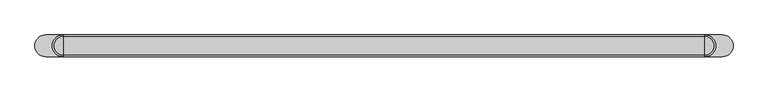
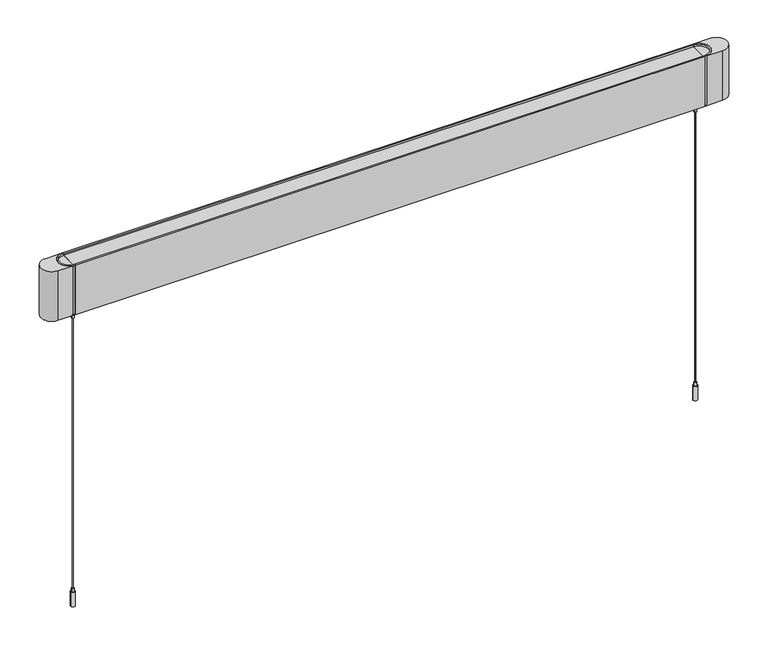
"""IFC4 building model written with IfcOpenShell, lengths in millimetres: light fixture geometry, Lighting-Pendant-Betacalco-Block-Straight : BLKP-DT1-PW01-TR01-SL04-EP01-LP020-CR80-CTA40."""

from ifc_helpers import new_model, si_unit, point, frame, frame_2d, origin, place, context, project, spatial, polyline, circle_curve, trimmed, segment, composite_curve, outline, extrude, source, transform, mapped, element, save
from ifc_brep_helpers import plane_surface, cylinder_surface, revolved_surface, advanced_brep


def light_fixture_935129ff(model_context):
    return source(origin(), model_context, "Body", "SolidModel", [
        extrude(outline(composite_curve([segment(polyline([(609.6, -20.6375), (609.6, -18.0975)]), True, "CONTINUOUS"), segment(trimmed(circle_curve(frame_2d((609.6, 0.0)), 18.0975), [point((609.6, -18.0975))], [point((609.6, 18.0975))], True, "CARTESIAN"), True, "CONTINUOUS"), segment(polyline([(609.6, 18.0975), (609.6, 20.6375)]), True, "CONTINUOUS"), segment(trimmed(circle_curve(frame_2d((609.6, 0.0)), 20.6375), [point((609.6, 20.6375))], [point((609.6, -20.6375))], False, "CARTESIAN"), True, "CONTINUOUS")], self_intersect=False)), frame((0.0, 0.0, 611.1875), z_axis=(0.0, 0.0, 1.0), x_axis=(1.0, 0.0, 0.0)), (0.0, 0.0, 1.0), 100.0125),
        extrude(outline(composite_curve([segment(polyline([(609.6, -18.0975), (609.6, 18.0975)]), True, "CONTINUOUS"), segment(trimmed(circle_curve(frame_2d((609.6, 0.0)), 18.0975), [point((609.6, 18.0975))], [point((609.6, -18.0975))], False, "CARTESIAN"), True, "CONTINUOUS")], self_intersect=False)), frame((0.0, 0.0, 705.9095588), z_axis=(0.0, 0.0, 1.0), x_axis=(1.0, 0.0, 0.0)), (0.0, 0.0, 1.0), 1.5875),
        advanced_brep(
        [(609.6, 20.6375, 611.1875), (609.6, -20.6375, 611.1875), (609.6, -20.6375, 609.6), (609.6, 20.6375, 609.6), (642.9375, 20.6375, 609.6), (642.9375, -20.6375, 609.6), (609.6, 20.6375, 711.2), (609.6, -20.6375, 711.2), (642.9375, -20.6375, 711.2), (642.9375, 20.6375, 711.2)],
        [
            (0, 1),
            (1, 0, circle_curve(frame((609.6, 0.0, 611.1875), z_axis=(0.0, 0.0, 1.0), x_axis=(1.0, 0.0, 0.0)), 20.6375)),
            (2, 3),
            (3, 4),
            (4, 5, circle_curve(frame((642.9375, 0.0, 609.6), z_axis=(0.0, 0.0, -1.0), x_axis=(1.0, 0.0, 0.0)), 20.6375)),
            (5, 2),
            (0, 3),
            (2, 1),
            (6, 7, circle_curve(frame((609.6, 0.0, 711.2), z_axis=(0.0, 0.0, -1.0), x_axis=(1.0, 0.0, 0.0)), 20.6375)),
            (7, 8),
            (8, 9, circle_curve(frame((642.9375, 0.0, 711.2), z_axis=(0.0, 0.0, 1.0), x_axis=(1.0, 0.0, 0.0)), 20.6375)),
            (9, 6),
            (6, 0),
            (1, 7),
            (5, 8),
            (4, 9),
        ],
        [
            plane_surface(frame((630.2375, 0.0, 611.1875), z_axis=(0.0, 0.0, 1.0), x_axis=(0.0, 1.0, 0.0))),
            plane_surface(frame((630.2375, 0.0, 609.6), z_axis=(0.0, 0.0, -1.0), x_axis=(0.0, -1.0, 0.0))),
            plane_surface(frame((609.6, 20.6375, 611.1875), z_axis=(-1.0, 0.0, 0.0), x_axis=(0.0, 0.0, -1.0))),
            plane_surface(frame((630.2375, 0.0, 711.2), z_axis=(0.0, 0.0, 1.0), x_axis=(0.0, -1.0, 0.0))),
            revolved_surface(polyline([(630.2375000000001, 0.0, 611.1875), (630.2375000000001, 0.0, 711.2)]), (609.6, 0.0, 609.6), (0.0, 0.0, -1.0)),
            plane_surface(frame((609.6, -20.6375, 711.2), z_axis=(0.0, -1.0, 0.0), x_axis=(0.0, 0.0, -1.0))),
            cylinder_surface(frame((642.9375, 0.0, 609.6), z_axis=(0.0, 0.0, 1.0), x_axis=(1.0, 0.0, 0.0)), 20.6375),
            plane_surface(frame((642.9375, 20.6375, 711.2), z_axis=(0.0, 1.0, 0.0), x_axis=(0.0, 0.0, -1.0))),
        ],
        [
            (0, [[1, 2]]),
            (1, [[3, 4, 5, 6]]),
            (2, [[-1, 7, -3, 8]]),
            (3, [[9, 10, 11, 12]]),
            (4, [[-9, 13, -2, 14]]),
            (5, [[-10, -14, -8, -6, 15]]),
            (6, [[-11, -15, -5, 16]]),
            (7, [[-12, -16, -4, -7, -13]]),
        ],
    ),
        extrude(outline(composite_curve([segment(polyline([(-609.6, 20.6375), (-609.6, 18.0975)]), True, "CONTINUOUS"), segment(trimmed(circle_curve(frame_2d((-609.6, 0.0)), 18.0975), [point((-609.6, 18.0975))], [point((-609.6, -18.0975))], True, "CARTESIAN"), True, "CONTINUOUS"), segment(polyline([(-609.6, -18.0975), (-609.6, -20.6375)]), True, "CONTINUOUS"), segment(trimmed(circle_curve(frame_2d((-609.6, 0.0)), 20.6375), [point((-609.6, -20.6375))], [point((-609.6, 20.6375))], False, "CARTESIAN"), True, "CONTINUOUS")], self_intersect=False)), frame((0.0, 0.0, 611.1875), z_axis=(0.0, 0.0, 1.0), x_axis=(1.0, 0.0, 0.0)), (0.0, 0.0, 1.0), 100.0125),
        extrude(outline(composite_curve([segment(polyline([(-609.6, 18.0975), (-609.6, -18.0975)]), True, "CONTINUOUS"), segment(trimmed(circle_curve(frame_2d((-609.6, 0.0)), 18.0975), [point((-609.6, -18.0975))], [point((-609.6, 18.0975))], False, "CARTESIAN"), True, "CONTINUOUS")], self_intersect=False)), frame((0.0, 0.0, 705.9095588), z_axis=(0.0, 0.0, 1.0), x_axis=(1.0, 0.0, 0.0)), (0.0, 0.0, 1.0), 1.5875),
        advanced_brep(
        [(-609.6, -20.6375, 611.1875), (-609.6, 20.6375, 611.1875), (-609.6, 20.6375, 609.6), (-609.6, -20.6375, 609.6), (-642.9375, -20.6375, 609.6), (-642.9375, 20.6375, 609.6), (-609.6, -20.6375, 711.2), (-609.6, 20.6375, 711.2), (-642.9375, 20.6375, 711.2), (-642.9375, -20.6375, 711.2)],
        [
            (0, 1),
            (1, 0, circle_curve(frame((-609.6, 0.0, 611.1875), z_axis=(0.0, 0.0, 1.0), x_axis=(-1.0, 0.0, 0.0)), 20.6375)),
            (2, 3),
            (3, 4),
            (4, 5, circle_curve(frame((-642.9375, 0.0, 609.6), z_axis=(0.0, 0.0, -1.0), x_axis=(-1.0, 0.0, 0.0)), 20.6375)),
            (5, 2),
            (0, 3),
            (2, 1),
            (6, 7, circle_curve(frame((-609.6, 0.0, 711.2), z_axis=(0.0, 0.0, -1.0), x_axis=(-1.0, 0.0, 0.0)), 20.6375)),
            (7, 8),
            (8, 9, circle_curve(frame((-642.9375, 0.0, 711.2), z_axis=(0.0, 0.0, 1.0), x_axis=(-1.0, 0.0, 0.0)), 20.6375)),
            (9, 6),
            (6, 0),
            (1, 7),
            (5, 8),
            (4, 9),
        ],
        [
            plane_surface(frame((-630.2375, 0.0, 611.1875), z_axis=(0.0, 0.0, 1.0), x_axis=(0.0, -1.0, 0.0))),
            plane_surface(frame((-630.2375, 0.0, 609.6), z_axis=(0.0, 0.0, -1.0), x_axis=(0.0, 1.0, 0.0))),
            plane_surface(frame((-609.6, -20.6375, 611.1875), z_axis=(1.0, 0.0, 0.0), x_axis=(0.0, 0.0, -1.0))),
            plane_surface(frame((-630.2375, 0.0, 711.2), z_axis=(0.0, 0.0, 1.0), x_axis=(0.0, 1.0, 0.0))),
            revolved_surface(polyline([(-630.2375000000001, 0.0, 611.1875), (-630.2375000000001, 0.0, 711.2)]), (-609.6, 0.0, 609.6), (0.0, 0.0, -1.0)),
            plane_surface(frame((-609.6, 20.6375, 711.2), z_axis=(0.0, 1.0, 0.0), x_axis=(0.0, 0.0, -1.0))),
            cylinder_surface(frame((-642.9375, 0.0, 609.6), z_axis=(0.0, 0.0, 1.0), x_axis=(-1.0, 0.0, 0.0)), 20.6375),
            plane_surface(frame((-642.9375, -20.6375, 711.2), z_axis=(0.0, -1.0, 0.0), x_axis=(0.0, 0.0, -1.0))),
        ],
        [
            (0, [[1, 2]]),
            (1, [[3, 4, 5, 6]]),
            (2, [[-1, 7, -3, 8]]),
            (3, [[9, 10, 11, 12]]),
            (4, [[-9, 13, -2, 14]]),
            (5, [[-10, -14, -8, -6, 15]]),
            (6, [[-11, -15, -5, 16]]),
            (7, [[-12, -16, -4, -7, -13]]),
        ],
    ),
        advanced_brep(
        [(606.4250015, 0.0, 0.0), (597.5349985, 0.0, 0.0), (597.5349985, 0.0, 28.4480024), (606.4250015, 0.0, 28.4480024), (599.4400002, 0.0, 28.4480024), (604.5199998, 0.0, 28.4480024), (599.4400002, 0.0, 35.4330037), (604.5199998, 0.0, 35.4330037), (601.98, 0.0, 35.4330037), (601.98, 0.0, 0.0)],
        [
            (0, 1, circle_curve(frame((601.98, 0.0, 0.0), z_axis=(0.0, 0.0, 1.0), x_axis=(-1.0, 0.0, 0.0)), 4.4450015)),
            (1, 2),
            (2, 3, circle_curve(frame((601.98, 0.0, 28.4480024), z_axis=(0.0, 0.0, -1.0), x_axis=(-1.0, 0.0, 0.0)), 4.4450015)),
            (3, 0),
            (1, 0, circle_curve(frame((601.98, 0.0, 0.0), z_axis=(0.0, 0.0, 1.0), x_axis=(-1.0, 0.0, 0.0)), 4.4450015)),
            (3, 2, circle_curve(frame((601.98, 0.0, 28.4480024), z_axis=(0.0, 0.0, -1.0), x_axis=(-1.0, 0.0, 0.0)), 4.4450015)),
            (2, 4),
            (4, 5, circle_curve(frame((601.98, 0.0, 28.4480024), z_axis=(0.0, 0.0, -1.0), x_axis=(-1.0, 0.0, 0.0)), 2.5399998)),
            (5, 3),
            (5, 4, circle_curve(frame((601.98, 0.0, 28.4480024), z_axis=(0.0, 0.0, -1.0), x_axis=(-1.0, 0.0, 0.0)), 2.5399998)),
            (4, 6),
            (6, 7, circle_curve(frame((601.98, 0.0, 35.4330037), z_axis=(0.0, 0.0, -1.0), x_axis=(-1.0, 0.0, 0.0)), 2.5399998)),
            (7, 5),
            (7, 6, circle_curve(frame((601.98, 0.0, 35.4330037), z_axis=(0.0, 0.0, -1.0), x_axis=(-1.0, 0.0, 0.0)), 2.5399998)),
            (6, 8),
            (8, 7),
            (9, 1),
            (0, 9),
        ],
        [
            cylinder_surface(frame((601.98, 0.0, 2366.7150031), z_axis=(0.0, 0.0, -1.0), x_axis=(-1.0, 0.0, 0.0)), 4.4450015),
            plane_surface(frame((601.98, 0.0, 28.4480024), z_axis=(0.0, 0.0, 1.0), x_axis=(-1.0, 0.0, 0.0))),
            cylinder_surface(frame((601.98, 0.0, 2366.7150031), z_axis=(0.0, 0.0, -1.0), x_axis=(-1.0, 0.0, 0.0)), 2.5399998),
            plane_surface(frame((601.98, 0.0, 35.4330037), z_axis=(0.0, 0.0, 1.0), x_axis=(-1.0, 0.0, 0.0))),
            plane_surface(frame((601.98, 0.0, 0.0), z_axis=(0.0, 0.0, -1.0), x_axis=(-1.0, 0.0, 0.0))),
        ],
        [
            (0, [[1, 2, 3, 4]]),
            (0, [[5, -4, 6, -2]]),
            (1, [[-3, 7, 8, 9]]),
            (1, [[-6, -9, 10, -7]]),
            (2, [[-8, 11, 12, 13]]),
            (2, [[-10, -13, 14, -11]]),
            (3, [[-12, 15, 16]]),
            (3, [[-14, -16, -15]]),
            (4, [[17, -1, 18]]),
            (4, [[-18, -5, -17]]),
        ],
    ),
        advanced_brep(
        [(602.7737476, 0.0, 35.4330037), (601.1862524, 0.0, 35.4330037), (601.1862524, 0.0, 589.2774601), (602.7737476, 0.0, 589.2774601), (601.98, 0.0, 35.4330037), (601.98, 0.0, 589.2774601)],
        [
            (0, 1, circle_curve(frame((601.98, 0.0, 35.4330037), z_axis=(0.0, 0.0, 1.0), x_axis=(-1.0, 0.0, 0.0)), 0.7937476)),
            (1, 2),
            (2, 3, circle_curve(frame((601.98, 0.0, 589.2774601), z_axis=(0.0, 0.0, -1.0), x_axis=(-1.0, 0.0, 0.0)), 0.7937476)),
            (3, 0),
            (1, 0, circle_curve(frame((601.98, 0.0, 35.4330037), z_axis=(0.0, 0.0, 1.0), x_axis=(-1.0, 0.0, 0.0)), 0.7937476)),
            (3, 2, circle_curve(frame((601.98, 0.0, 589.2774601), z_axis=(0.0, 0.0, -1.0), x_axis=(-1.0, 0.0, 0.0)), 0.7937476)),
            (4, 1),
            (0, 4),
            (2, 5),
            (5, 3),
        ],
        [
            cylinder_surface(frame((601.98, 0.0, 2366.7150031), z_axis=(0.0, 0.0, -1.0), x_axis=(-1.0, 0.0, 0.0)), 0.7937476),
            plane_surface(frame((601.98, 0.0, 35.4330037), z_axis=(0.0, 0.0, -1.0), x_axis=(-1.0, 0.0, 0.0))),
            plane_surface(frame((601.98, 0.0, 589.2774601), z_axis=(0.0, 0.0, 1.0), x_axis=(-1.0, 0.0, 0.0))),
        ],
        [
            (0, [[1, 2, 3, 4]]),
            (0, [[5, -4, 6, -2]]),
            (1, [[7, -1, 8]]),
            (1, [[-8, -5, -7]]),
            (2, [[-3, 9, 10]]),
            (2, [[-6, -10, -9]]),
        ],
    ),
        advanced_brep(
        [(606.4250015, 0.0, 596.2624614), (597.5349985, 0.0, 596.2624614), (597.5349985, 0.0, 609.6), (606.4250015, 0.0, 609.6), (604.5199998, 0.0, 596.2624614), (599.4400002, 0.0, 596.2624614), (604.5199998, 0.0, 589.2774601), (599.4400002, 0.0, 589.2774601), (601.98, 0.0, 589.2774601), (601.98, 0.0, 609.6)],
        [
            (0, 1, circle_curve(frame((601.98, 0.0, 596.2624614), z_axis=(0.0, 0.0, 1.0), x_axis=(-1.0, 0.0, 0.0)), 4.4450015)),
            (1, 2),
            (2, 3, circle_curve(frame((601.98, 0.0, 609.6), z_axis=(0.0, 0.0, -1.0), x_axis=(-1.0, 0.0, 0.0)), 4.4450015)),
            (3, 0),
            (1, 0, circle_curve(frame((601.98, 0.0, 596.2624614), z_axis=(0.0, 0.0, 1.0), x_axis=(-1.0, 0.0, 0.0)), 4.4450015)),
            (3, 2, circle_curve(frame((601.98, 0.0, 609.6), z_axis=(0.0, 0.0, -1.0), x_axis=(-1.0, 0.0, 0.0)), 4.4450015)),
            (4, 5, circle_curve(frame((601.98, 0.0, 596.2624614), z_axis=(0.0, 0.0, 1.0), x_axis=(-1.0, 0.0, 0.0)), 2.5399998)),
            (5, 1),
            (0, 4),
            (5, 4, circle_curve(frame((601.98, 0.0, 596.2624614), z_axis=(0.0, 0.0, 1.0), x_axis=(-1.0, 0.0, 0.0)), 2.5399998)),
            (6, 7, circle_curve(frame((601.98, 0.0, 589.2774601), z_axis=(0.0, 0.0, 1.0), x_axis=(-1.0, 0.0, 0.0)), 2.5399998)),
            (7, 5),
            (4, 6),
            (7, 6, circle_curve(frame((601.98, 0.0, 589.2774601), z_axis=(0.0, 0.0, 1.0), x_axis=(-1.0, 0.0, 0.0)), 2.5399998)),
            (8, 7),
            (6, 8),
            (2, 9),
            (9, 3),
        ],
        [
            cylinder_surface(frame((601.98, 0.0, 2366.7150031), z_axis=(0.0, 0.0, -1.0), x_axis=(-1.0, 0.0, 0.0)), 4.4450015),
            plane_surface(frame((601.98, 0.0, 596.2624614), z_axis=(0.0, 0.0, -1.0), x_axis=(-1.0, 0.0, 0.0))),
            cylinder_surface(frame((601.98, 0.0, 2366.7150031), z_axis=(0.0, 0.0, -1.0), x_axis=(-1.0, 0.0, 0.0)), 2.5399998),
            plane_surface(frame((601.98, 0.0, 589.2774601), z_axis=(0.0, 0.0, -1.0), x_axis=(-1.0, 0.0, 0.0))),
            plane_surface(frame((601.98, 0.0, 609.6), z_axis=(0.0, 0.0, 1.0), x_axis=(-1.0, 0.0, 0.0))),
        ],
        [
            (0, [[1, 2, 3, 4]]),
            (0, [[5, -4, 6, -2]]),
            (1, [[7, 8, -1, 9]]),
            (1, [[10, -9, -5, -8]]),
            (2, [[11, 12, -7, 13]]),
            (2, [[14, -13, -10, -12]]),
            (3, [[15, -11, 16]]),
            (3, [[-16, -14, -15]]),
            (4, [[-3, 17, 18]]),
            (4, [[-6, -18, -17]]),
        ],
    ),
        advanced_brep(
        [(-597.5349985, 0.0, 0.0), (-606.4250015, 0.0, 0.0), (-606.4250015, 0.0, 28.4480024), (-597.5349985, 0.0, 28.4480024), (-604.5199998, 0.0, 28.4480024), (-599.4400002, 0.0, 28.4480024), (-604.5199998, 0.0, 35.4330037), (-599.4400002, 0.0, 35.4330037), (-601.98, 0.0, 35.4330037), (-601.98, 0.0, 0.0)],
        [
            (0, 1, circle_curve(frame((-601.98, 0.0, 0.0), z_axis=(0.0, 0.0, 1.0), x_axis=(-1.0, 0.0, 0.0)), 4.4450015)),
            (1, 2),
            (2, 3, circle_curve(frame((-601.98, 0.0, 28.4480024), z_axis=(0.0, 0.0, -1.0), x_axis=(-1.0, 0.0, 0.0)), 4.4450015)),
            (3, 0),
            (1, 0, circle_curve(frame((-601.98, 0.0, 0.0), z_axis=(0.0, 0.0, 1.0), x_axis=(-1.0, 0.0, 0.0)), 4.4450015)),
            (3, 2, circle_curve(frame((-601.98, 0.0, 28.4480024), z_axis=(0.0, 0.0, -1.0), x_axis=(-1.0, 0.0, 0.0)), 4.4450015)),
            (2, 4),
            (4, 5, circle_curve(frame((-601.98, 0.0, 28.4480024), z_axis=(0.0, 0.0, -1.0), x_axis=(-1.0, 0.0, 0.0)), 2.5399998)),
            (5, 3),
            (5, 4, circle_curve(frame((-601.98, 0.0, 28.4480024), z_axis=(0.0, 0.0, -1.0), x_axis=(-1.0, 0.0, 0.0)), 2.5399998)),
            (4, 6),
            (6, 7, circle_curve(frame((-601.98, 0.0, 35.4330037), z_axis=(0.0, 0.0, -1.0), x_axis=(-1.0, 0.0, 0.0)), 2.5399998)),
            (7, 5),
            (7, 6, circle_curve(frame((-601.98, 0.0, 35.4330037), z_axis=(0.0, 0.0, -1.0), x_axis=(-1.0, 0.0, 0.0)), 2.5399998)),
            (6, 8),
            (8, 7),
            (9, 1),
            (0, 9),
        ],
        [
            cylinder_surface(frame((-601.98, 0.0, 2366.7150031), z_axis=(0.0, 0.0, -1.0), x_axis=(-1.0, 0.0, 0.0)), 4.4450015),
            plane_surface(frame((-601.98, 0.0, 28.4480024), z_axis=(0.0, 0.0, 1.0), x_axis=(-1.0, 0.0, 0.0))),
            cylinder_surface(frame((-601.98, 0.0, 2366.7150031), z_axis=(0.0, 0.0, -1.0), x_axis=(-1.0, 0.0, 0.0)), 2.5399998),
            plane_surface(frame((-601.98, 0.0, 35.4330037), z_axis=(0.0, 0.0, 1.0), x_axis=(-1.0, 0.0, 0.0))),
            plane_surface(frame((-601.98, 0.0, 0.0), z_axis=(0.0, 0.0, -1.0), x_axis=(-1.0, 0.0, 0.0))),
        ],
        [
            (0, [[1, 2, 3, 4]]),
            (0, [[5, -4, 6, -2]]),
            (1, [[-3, 7, 8, 9]]),
            (1, [[-6, -9, 10, -7]]),
            (2, [[-8, 11, 12, 13]]),
            (2, [[-10, -13, 14, -11]]),
            (3, [[-12, 15, 16]]),
            (3, [[-14, -16, -15]]),
            (4, [[17, -1, 18]]),
            (4, [[-18, -5, -17]]),
        ],
    ),
        advanced_brep(
        [(-601.1862524, 0.0, 35.4330037), (-602.7737476, 0.0, 35.4330037), (-602.7737476, 0.0, 589.2774601), (-601.1862524, 0.0, 589.2774601), (-601.98, 0.0, 35.4330037), (-601.98, 0.0, 589.2774601)],
        [
            (0, 1, circle_curve(frame((-601.98, 0.0, 35.4330037), z_axis=(0.0, 0.0, 1.0), x_axis=(-1.0, 0.0, 0.0)), 0.7937476)),
            (1, 2),
            (2, 3, circle_curve(frame((-601.98, 0.0, 589.2774601), z_axis=(0.0, 0.0, -1.0), x_axis=(-1.0, 0.0, 0.0)), 0.7937476)),
            (3, 0),
            (1, 0, circle_curve(frame((-601.98, 0.0, 35.4330037), z_axis=(0.0, 0.0, 1.0), x_axis=(-1.0, 0.0, 0.0)), 0.7937476)),
            (3, 2, circle_curve(frame((-601.98, 0.0, 589.2774601), z_axis=(0.0, 0.0, -1.0), x_axis=(-1.0, 0.0, 0.0)), 0.7937476)),
            (4, 1),
            (0, 4),
            (2, 5),
            (5, 3),
        ],
        [
            cylinder_surface(frame((-601.98, 0.0, 2366.7150031), z_axis=(0.0, 0.0, -1.0), x_axis=(-1.0, 0.0, 0.0)), 0.7937476),
            plane_surface(frame((-601.98, 0.0, 35.4330037), z_axis=(0.0, 0.0, -1.0), x_axis=(-1.0, 0.0, 0.0))),
            plane_surface(frame((-601.98, 0.0, 589.2774601), z_axis=(0.0, 0.0, 1.0), x_axis=(-1.0, 0.0, 0.0))),
        ],
        [
            (0, [[1, 2, 3, 4]]),
            (0, [[5, -4, 6, -2]]),
            (1, [[7, -1, 8]]),
            (1, [[-8, -5, -7]]),
            (2, [[-3, 9, 10]]),
            (2, [[-6, -10, -9]]),
        ],
    ),
        advanced_brep(
        [(-597.5349985, 0.0, 596.2624614), (-606.4250015, 0.0, 596.2624614), (-606.4250015, 0.0, 609.6), (-597.5349985, 0.0, 609.6), (-599.4400002, 0.0, 596.2624614), (-604.5199998, 0.0, 596.2624614), (-599.4400002, 0.0, 589.2774601), (-604.5199998, 0.0, 589.2774601), (-601.98, 0.0, 589.2774601), (-601.98, 0.0, 609.6)],
        [
            (0, 1, circle_curve(frame((-601.98, 0.0, 596.2624614), z_axis=(0.0, 0.0, 1.0), x_axis=(-1.0, 0.0, 0.0)), 4.4450015)),
            (1, 2),
            (2, 3, circle_curve(frame((-601.98, 0.0, 609.6), z_axis=(0.0, 0.0, -1.0), x_axis=(-1.0, 0.0, 0.0)), 4.4450015)),
            (3, 0),
            (1, 0, circle_curve(frame((-601.98, 0.0, 596.2624614), z_axis=(0.0, 0.0, 1.0), x_axis=(-1.0, 0.0, 0.0)), 4.4450015)),
            (3, 2, circle_curve(frame((-601.98, 0.0, 609.6), z_axis=(0.0, 0.0, -1.0), x_axis=(-1.0, 0.0, 0.0)), 4.4450015)),
            (4, 5, circle_curve(frame((-601.98, 0.0, 596.2624614), z_axis=(0.0, 0.0, 1.0), x_axis=(-1.0, 0.0, 0.0)), 2.5399998)),
            (5, 1),
            (0, 4),
            (5, 4, circle_curve(frame((-601.98, 0.0, 596.2624614), z_axis=(0.0, 0.0, 1.0), x_axis=(-1.0, 0.0, 0.0)), 2.5399998)),
            (6, 7, circle_curve(frame((-601.98, 0.0, 589.2774601), z_axis=(0.0, 0.0, 1.0), x_axis=(-1.0, 0.0, 0.0)), 2.5399998)),
            (7, 5),
            (4, 6),
            (7, 6, circle_curve(frame((-601.98, 0.0, 589.2774601), z_axis=(0.0, 0.0, 1.0), x_axis=(-1.0, 0.0, 0.0)), 2.5399998)),
            (8, 7),
            (6, 8),
            (2, 9),
            (9, 3),
        ],
        [
            cylinder_surface(frame((-601.98, 0.0, 2366.7150031), z_axis=(0.0, 0.0, -1.0), x_axis=(-1.0, 0.0, 0.0)), 4.4450015),
            plane_surface(frame((-601.98, 0.0, 596.2624614), z_axis=(0.0, 0.0, -1.0), x_axis=(-1.0, 0.0, 0.0))),
            cylinder_surface(frame((-601.98, 0.0, 2366.7150031), z_axis=(0.0, 0.0, -1.0), x_axis=(-1.0, 0.0, 0.0)), 2.5399998),
            plane_surface(frame((-601.98, 0.0, 589.2774601), z_axis=(0.0, 0.0, -1.0), x_axis=(-1.0, 0.0, 0.0))),
            plane_surface(frame((-601.98, 0.0, 609.6), z_axis=(0.0, 0.0, 1.0), x_axis=(-1.0, 0.0, 0.0))),
        ],
        [
            (0, [[1, 2, 3, 4]]),
            (0, [[5, -4, 6, -2]]),
            (1, [[7, 8, -1, 9]]),
            (1, [[10, -9, -5, -8]]),
            (2, [[11, 12, -7, 13]]),
            (2, [[14, -13, -10, -12]]),
            (3, [[15, -11, 16]]),
            (3, [[-16, -14, -15]]),
            (4, [[-3, 17, 18]]),
            (4, [[-6, -18, -17]]),
        ],
    ),
        extrude(outline(polyline([(609.6, 18.0975), (609.6, -18.0975), (-609.6, -18.0975), (-609.6, 18.0975), (609.6, 18.0975)])), frame((0.0, 0.0, 705.9095588), z_axis=(0.0, 0.0, 1.0), x_axis=(1.0, 0.0, 0.0)), (0.0, 0.0, 1.0), 1.5875),
        extrude(outline(polyline([(609.6, 18.0975), (609.6, -18.0975), (-609.6, -18.0975), (-609.6, 18.0975), (609.6, 18.0975)])), frame((0.0, 0.0, 663.287913), z_axis=(0.0, 0.0, 1.0), x_axis=(1.0, 0.0, 0.0)), (0.0, 0.0, 1.0), 1.5875),
        extrude(outline(polyline([(609.6, 18.0975), (609.6, -18.0975), (-609.6, -18.0975), (-609.6, 18.0975), (609.6, 18.0975)])), frame((0.0, 0.0, 609.6), z_axis=(0.0, 0.0, 1.0), x_axis=(1.0, 0.0, 0.0)), (0.0, 0.0, 1.0), 1.5875),
        extrude(outline(polyline([(609.6, 20.6375), (609.6, 18.0975), (-609.6, 18.0975), (-609.6, 20.6375), (609.6, 20.6375)])), frame((0.0, 0.0, 609.6), z_axis=(0.0, 0.0, 1.0), x_axis=(1.0, 0.0, 0.0)), (0.0, 0.0, 1.0), 101.6),
        extrude(outline(polyline([(609.6, -18.0975), (609.6, -20.6375), (-609.6, -20.6375), (-609.6, -18.0975), (609.6, -18.0975)])), frame((0.0, 0.0, 609.6), z_axis=(0.0, 0.0, 1.0), x_axis=(1.0, 0.0, 0.0)), (0.0, 0.0, 1.0), 101.6),
    ])


if __name__ == "__main__":
    model = new_model("IFC4")
    model_context = context("Model", 3, world=origin())
    ifc_project = project(units=[si_unit("LENGTHUNIT", "METRE", prefix="MILLI")], contexts=[model_context])
    site = spatial("IfcSite", under=ifc_project)
    building = spatial("IfcBuilding", under=site)
    placement = place(None, origin())
    light_fixture_shape = light_fixture_935129ff(model_context)
    element("IfcLightFixture", 1, ObjectType="Lighting-Pendant-Betacalco-Block-Straight : BLKP-DT1-PW01-TR01-SL04-EP01-LP020-CR80-CTA40", at=placement, inside=building, context=model_context, shape_type="MappedRepresentation", body=[
        mapped(light_fixture_shape, transform((0.0, 0.0, 0.0), x_axis=(1.0, 0.0, 0.0), y_axis=(0.0, 1.0, 0.0), z_axis=(0.0, 0.0, 1.0))),
    ])
    save(model, "model.ifc")
